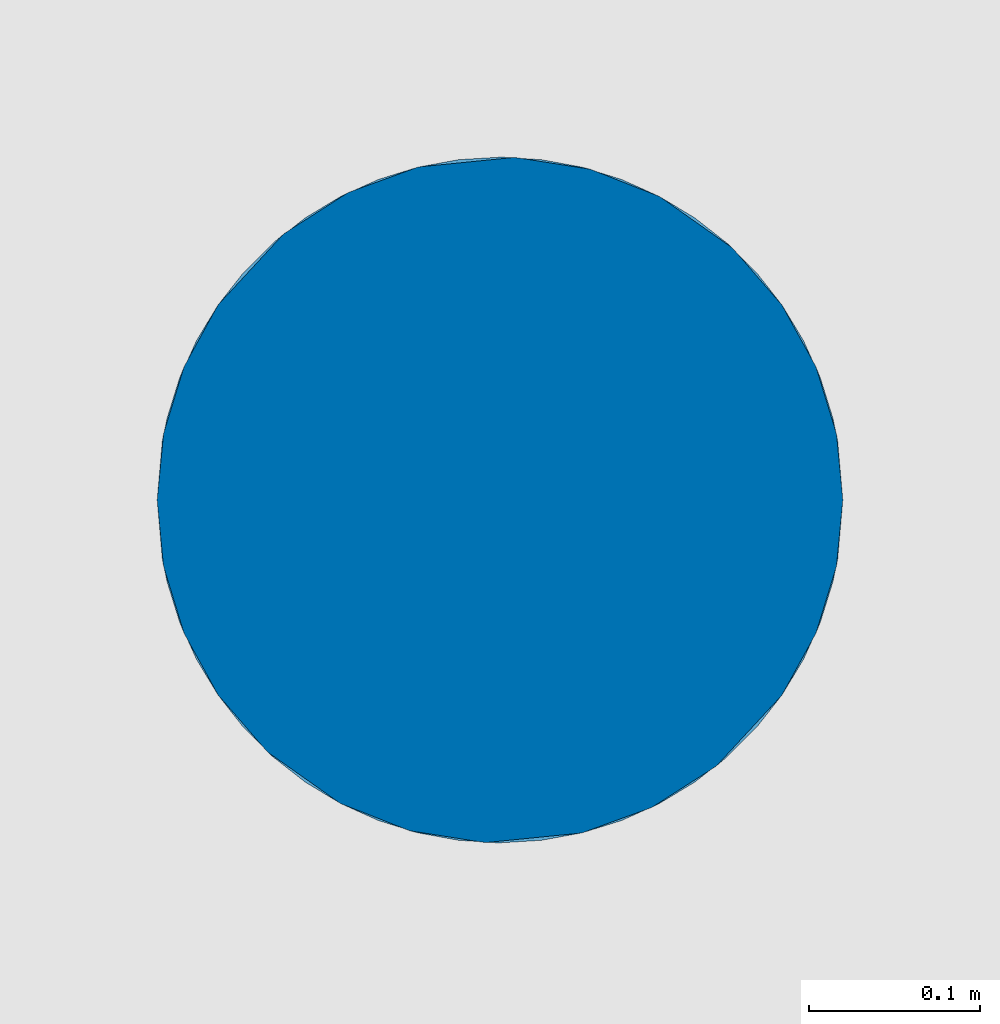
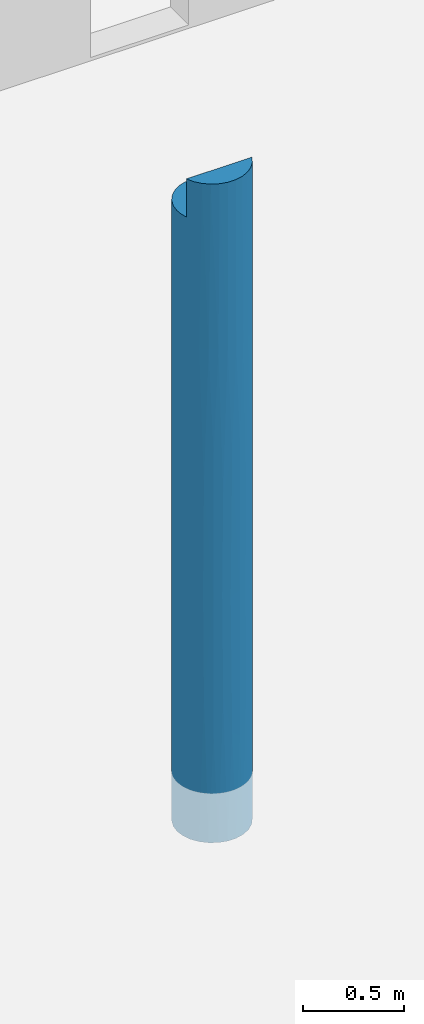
# One storey, part 10 of 29: 1 column.
"""IFC2X3 building model written with IfcOpenShell, lengths in centimetres."""

from ifc_helpers import new_model, entity, si_unit, converted_unit, derived_unit, direction, frame, origin, place, context, subcontext, project, spatial, faceted_brep, source, transform, mapped, material, type_object, type_shapes, element, save


model = new_model("IFC2X3")

# Units and contexts
model_context = context("Model", 3, precision=0.001, world=origin(), true_north=direction((6.12303176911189e-17, 1.0)))
body_context = subcontext(model_context, "Body", "Model", "MODEL_VIEW")
ifc_project = project(units=[si_unit("LENGTHUNIT", "METRE", prefix="CENTI"), si_unit("AREAUNIT", "SQUARE_METRE"), si_unit("VOLUMEUNIT", "CUBIC_METRE"), converted_unit("PLANEANGLEUNIT", "DEGREE", entity("IfcRatioMeasure", 0.0174532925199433), si_unit("PLANEANGLEUNIT", "RADIAN"), dimensions=[0, 0, 0, 0, 0, 0, 0]), si_unit("MASSUNIT", "GRAM", prefix="KILO"), derived_unit("MASSDENSITYUNIT", [(si_unit("MASSUNIT", "GRAM", prefix="KILO"), 1), (si_unit("LENGTHUNIT", "METRE"), -3)]), si_unit("TIMEUNIT", "SECOND"), si_unit("FREQUENCYUNIT", "HERTZ"), si_unit("THERMODYNAMICTEMPERATUREUNIT", "DEGREE_CELSIUS"), derived_unit("THERMALTRANSMITTANCEUNIT", [(si_unit("MASSUNIT", "GRAM", prefix="KILO"), 1), (si_unit("THERMODYNAMICTEMPERATUREUNIT", "KELVIN"), -1), (si_unit("TIMEUNIT", "SECOND"), -3)]), derived_unit("VOLUMETRICFLOWRATEUNIT", [(si_unit("LENGTHUNIT", "METRE"), 3), (si_unit("TIMEUNIT", "SECOND"), -1)]), si_unit("ELECTRICCURRENTUNIT", "AMPERE"), si_unit("ELECTRICVOLTAGEUNIT", "VOLT"), si_unit("POWERUNIT", "WATT"), si_unit("FORCEUNIT", "NEWTON"), si_unit("ILLUMINANCEUNIT", "LUX"), si_unit("LUMINOUSFLUXUNIT", "LUMEN"), si_unit("LUMINOUSINTENSITYUNIT", "CANDELA"), derived_unit("USERDEFINED", [(si_unit("MASSUNIT", "GRAM", prefix="KILO"), -1), (si_unit("LENGTHUNIT", "METRE"), -2), (si_unit("TIMEUNIT", "SECOND"), 3), (si_unit("LUMINOUSFLUXUNIT", "LUMEN"), 1)]), derived_unit("LINEARVELOCITYUNIT", [(si_unit("LENGTHUNIT", "METRE"), 1), (si_unit("TIMEUNIT", "SECOND"), -1)]), si_unit("PRESSUREUNIT", "PASCAL"), derived_unit("USERDEFINED", [(si_unit("LENGTHUNIT", "METRE"), -2), (si_unit("MASSUNIT", "GRAM", prefix="KILO"), 1), (si_unit("TIMEUNIT", "SECOND"), -2)])], contexts=[model_context])

# Site, building, storey
site_placement = place(None, origin())
site = spatial("IfcSite", under=ifc_project, at=site_placement, Name="Default", CompositionType="ELEMENT")
building_placement = place(site_placement, origin())
building = spatial("IfcBuilding", under=site, at=building_placement, Name="CAGE 03", CompositionType="ELEMENT")
storey_placement = place(building_placement, frame((0.0, 0.0, -26.0)))
storey = spatial("IfcBuildingStorey", under=building, at=storey_placement, Name="+3.74", CompositionType="ELEMENT", Elevation=-26.0000000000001)

# Column
ifc_material = material(Name="Béton, C25/30")
column_type = type_object("IfcColumnType", Name="Ø40", PredefinedType="COLUMN", material=ifc_material)
shared_shape = source(origin(), body_context, "Body", "Brep", [
    faceted_brep([(37.159527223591, 13.0380540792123, 398.0), (1.42453322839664, 13.0380540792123, 398.0), (3.41040035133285, 9.10796949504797, 398.0), (6.20776916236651, 5.70806988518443, 398.0), (9.68120958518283, 3.00265389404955, 398.0), (13.6622819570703, 1.12282730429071, 398.0), (17.9580773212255, 0.159582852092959, 398.0), (22.3604747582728, 0.15952722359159, 398.0), (26.6562085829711, 1.12263361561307, 398.0), (30.6371824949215, 3.0022464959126, 398.0), (34.1105335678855, 5.70733804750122, 398.0), (36.9079646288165, 9.10691303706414, 398.0), (38.8945212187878, 13.0380540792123, 398.0), (13.0674294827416, 38.7383789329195, 298.0), (17.7487936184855, 39.8922315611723, 298.0), (22.5702608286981, 39.8922315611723, 298.0), (27.2516249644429, 38.7383789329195, 298.0), (31.5208221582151, 36.4977313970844, 298.0), (35.1297421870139, 33.3005072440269, 298.0), (37.8686477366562, 29.3325175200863, 298.0), (39.578363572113, 24.8243673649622, 298.0), (40.159527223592, 20.0380540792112, 298.0), (39.578363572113, 15.2517407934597, 298.0), (37.8686477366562, 10.7435906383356, 298.0), (35.1297421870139, 6.77560091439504, 298.0), (31.5208221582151, 3.578376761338, 298.0), (27.2516249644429, 1.33772922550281, 298.0), (22.5702608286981, 0.183876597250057, 298.0), (17.7487936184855, 0.183876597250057, 298.0), (13.0674294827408, 1.33772922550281, 298.0), (8.79823228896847, 3.578376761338, 298.0), (5.1893122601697, 6.77560091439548, 298.0), (2.45040671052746, 10.743590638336, 298.0), (0.740690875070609, 15.2517407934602, 298.0), (0.15952722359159, 20.0380540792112, 298.0), (0.740690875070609, 24.8243673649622, 298.0), (2.45040671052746, 29.3325175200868, 298.0), (5.1893122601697, 33.3005072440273, 298.0), (8.79823228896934, 36.4977313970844, 298.0), (0.478319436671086, 16.4813617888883, 375.0), (0.159527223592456, 20.0380540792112, 375.0), (1.42453322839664, 13.0380540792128, 375.0), (38.8945212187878, 13.0380540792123, 375.0), (39.8407350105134, 16.4813617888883, 375.0), (40.159527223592, 20.0380540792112, 375.0), (39.578363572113, 24.8243673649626, 375.0), (37.8686477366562, 29.3325175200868, 375.0), (27.2516249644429, 38.7383789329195, 375.0), (31.5208221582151, 36.4977313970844, 375.0), (35.1297421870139, 33.3005072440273, 375.0), (22.5702608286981, 39.8922315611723, 375.0), (17.7487936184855, 39.8922315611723, 375.0), (13.0674294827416, 38.7383789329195, 375.0), (8.79823228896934, 36.4977313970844, 375.0), (0.740690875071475, 24.8243673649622, 375.0), (2.45040671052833, 29.3325175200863, 375.0), (5.1893122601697, 33.3005072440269, 375.0)], [[[0, 1, 2, 3, 4, 5, 6, 7, 8, 9, 10, 11, 12]], [[13, 14, 15, 16, 17, 18, 19, 20, 21, 22, 23, 24, 25, 26, 27, 28, 29, 30, 31, 32, 33, 34, 35, 36, 37, 38]], [[39, 34, 33]], [[39, 40, 34]], [[41, 33, 32]], [[30, 29, 4]], [[3, 31, 30]], [[2, 32, 31]], [[5, 29, 28]], [[41, 39, 33]], [[2, 1, 41]], [[32, 2, 41]], [[31, 3, 2]], [[30, 4, 3]], [[5, 4, 29]], [[28, 6, 5]], [[28, 7, 6]], [[25, 9, 26]], [[26, 8, 27]], [[10, 25, 24]], [[42, 22, 43]], [[24, 23, 11]], [[42, 23, 22]], [[22, 21, 43]], [[11, 23, 42]], [[8, 26, 9]], [[10, 9, 25]], [[8, 7, 27]], [[44, 43, 21]], [[11, 42, 12]], [[11, 10, 24]], [[27, 7, 28]], [[45, 20, 19, 46]], [[21, 20, 45, 44]], [[17, 16, 47, 48]], [[49, 18, 17, 48]], [[46, 19, 18, 49]], [[47, 16, 15, 50]], [[15, 14, 51, 50]], [[51, 14, 13, 52]], [[38, 53, 52, 13]], [[36, 35, 54, 55]], [[56, 37, 36, 55]], [[53, 38, 37, 56]], [[54, 35, 34, 40]], [[48, 47, 50, 51, 52, 53, 56, 55, 54, 40, 39, 41, 42, 43, 44, 45, 46, 49]], [[0, 12, 42, 41, 1]]]),
    faceted_brep([(22.5702608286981, 39.8922315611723, 0.0), (27.2516249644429, 38.7383789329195, 0.0), (31.5208221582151, 36.4977313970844, 0.0), (35.1297421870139, 33.3005072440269, 0.0), (37.8686477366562, 29.3325175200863, 0.0), (39.578363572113, 24.8243673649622, 0.0), (40.159527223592, 20.0380540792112, 0.0), (39.578363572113, 15.2517407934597, 0.0), (37.8686477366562, 10.7435906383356, 0.0), (35.1297421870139, 6.77560091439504, 0.0), (31.5208221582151, 3.578376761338, 0.0), (27.2516249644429, 1.33772922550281, 0.0), (22.5702608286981, 0.183876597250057, 0.0), (17.7487936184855, 0.183876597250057, 0.0), (13.0674294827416, 1.33772922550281, 0.0), (8.79823228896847, 3.578376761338, 0.0), (5.1893122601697, 6.77560091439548, 0.0), (2.45040671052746, 10.743590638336, 0.0), (0.740690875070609, 15.2517407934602, 0.0), (0.15952722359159, 20.0380540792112, 0.0), (0.740690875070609, 24.8243673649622, 0.0), (2.45040671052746, 29.3325175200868, 0.0), (5.1893122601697, 33.3005072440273, 0.0), (8.79823228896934, 36.4977313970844, 0.0), (13.0674294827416, 38.7383789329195, 0.0), (17.7487936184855, 39.8922315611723, 0.0), (27.2516249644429, 1.33772922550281, 298.0), (31.5208221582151, 3.578376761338, 298.0), (35.1297421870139, 6.77560091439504, 298.0), (37.8686477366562, 10.7435906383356, 298.0), (39.578363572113, 15.2517407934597, 298.0), (40.159527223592, 20.0380540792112, 298.0), (39.578363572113, 24.8243673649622, 298.0), (37.8686477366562, 29.3325175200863, 298.0), (35.1297421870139, 33.3005072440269, 298.0), (31.5208221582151, 36.4977313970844, 298.0), (27.2516249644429, 38.7383789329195, 298.0), (22.5702608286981, 39.8922315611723, 298.0), (17.7487936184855, 39.8922315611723, 298.0), (13.0674294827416, 38.7383789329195, 298.0), (8.79823228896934, 36.4977313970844, 298.0), (5.1893122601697, 33.3005072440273, 298.0), (2.45040671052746, 29.3325175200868, 298.0), (0.740690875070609, 24.8243673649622, 298.0), (0.15952722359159, 20.0380540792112, 298.0), (0.740690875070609, 15.2517407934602, 298.0), (2.45040671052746, 10.743590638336, 298.0), (5.1893122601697, 6.77560091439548, 298.0), (8.79823228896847, 3.578376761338, 298.0), (13.0674294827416, 1.33772922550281, 298.0), (17.7487936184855, 0.183876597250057, 298.0), (22.5702608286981, 0.183876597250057, 298.0), (29.4539906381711, 37.7471746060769, 234.492004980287), (15.3732139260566, 39.4568904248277, 237.069426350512), (39.8586298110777, 23.4942596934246, 60.2992552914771), (38.8598520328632, 27.1301519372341, 92.1783624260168), (29.4539906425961, 37.7471746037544, 64.7303650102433), (33.4219803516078, 35.0082690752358, 86.909719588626), (0.159527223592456, 20.0380540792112, 49.3811051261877), (36.6192045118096, 31.3993490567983, 234.492005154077), (38.8598520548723, 27.1301518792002, 216.184382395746), (39.7898281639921, 23.8657537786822, 148.140478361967), (38.5835538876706, 27.8197789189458, 151.462832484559), (0.15952722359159, 20.0380540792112, 100.479587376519), (0.539464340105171, 23.9178907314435, 149.859525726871), (0.457816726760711, 23.479362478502, 74.9297628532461), (1.73651405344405, 27.8221780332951, 152.588649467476), (1.45920236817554, 27.1301518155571, 86.9097194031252), (24.9458404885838, 39.4568904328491, 86.9097193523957), (20.15952721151, 40.0380540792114, 64.7303650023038), (3.69984990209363, 31.3993490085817, 237.069426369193), (6.89707405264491, 35.0082690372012, 233.269635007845), (40.1595272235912, 20.0380540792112, 248.619841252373), (10.8650637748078, 37.7471745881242, 86.9097194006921), (33.4219803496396, 35.0082690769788, 216.184382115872), (36.6192044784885, 31.3993491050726, 161.451403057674), (36.6192045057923, 31.3993490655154, 64.7303651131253), (0.159527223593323, 20.0380540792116, 197.520510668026), (0.159527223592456, 20.0380540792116, 199.23979368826), (29.4539906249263, 37.747174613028, 149.0), (0.441806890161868, 23.3864126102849, 238.83127802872), (1.45920236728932, 27.1301518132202, 211.090280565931), (15.3732139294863, 39.4568904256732, 60.9305736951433), (15.3732139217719, 39.4568904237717, 149.0), (11.3350094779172, 37.9859755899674, 149.0), (6.89707405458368, 35.0082690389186, 64.7303649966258), (20.1595272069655, 40.0380540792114, 233.269635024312), (3.6998499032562, 31.3993490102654, 60.930573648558), (3.69984990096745, 31.3993490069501, 149.0), (21.0345162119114, 40.0189047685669, 146.717454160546), (25.4559542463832, 39.3240039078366, 149.0), (24.9458404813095, 39.4568904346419, 211.09028058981), (40.159527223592, 20.0380540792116, 98.7603174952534), (10.8650637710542, 37.7471745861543, 211.09028055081), (33.7312290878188, 34.7284900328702, 151.547050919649), (7.56471106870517, 35.5741606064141, 146.717453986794), (39.8666164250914, 23.4484257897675, 223.070239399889), (40.1595272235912, 20.0380540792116, 197.520634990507), (40.1595272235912, 20.0380540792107, 100.479367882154), (40.159527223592, 20.0380540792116, 49.3801580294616), (0.15952722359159, 20.0380540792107, 98.7602553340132), (0.15952722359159, 20.0380540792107, 248.619032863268), (40.159527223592, 20.0380540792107, 199.239683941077), (36.6192045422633, 8.67675914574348, 237.069426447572), (33.4219803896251, 5.06783911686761, 233.269635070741), (39.8772475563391, 16.6896955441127, 238.831278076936), (38.8598520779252, 12.945956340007, 211.090280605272), (38.5825403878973, 12.2539301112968, 152.588649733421), (38.8598520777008, 12.9459563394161, 86.9097193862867), (39.7795901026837, 16.1582174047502, 149.859525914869), (6.89707406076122, 5.0678391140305, 86.9097194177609), (10.8650637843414, 2.3289335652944, 64.7303649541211), (24.9458405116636, 0.619217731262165, 149.0), (29.4539906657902, 2.32893356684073, 86.909719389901), (28.9840449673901, 2.09013256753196, 149.0), (6.89707406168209, 5.06783911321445, 216.184381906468), (32.7543433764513, 4.501947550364, 146.717453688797), (33.4219803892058, 5.06783911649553, 64.7303649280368), (39.8612377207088, 16.5967456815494, 74.9297629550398), (20.1595272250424, 0.0380540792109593, 64.7303649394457), (15.3732139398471, 0.619217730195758, 86.9097193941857), (1.45920237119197, 12.9459563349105, 92.1783625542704), (10.8650637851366, 2.32893356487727, 234.492004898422), (24.9458405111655, 0.619217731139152, 237.069426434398), (3.69984990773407, 8.6767591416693, 234.492004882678), (3.69984990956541, 8.67675913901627, 161.451402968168), (3.69984990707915, 8.67675914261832, 64.7303649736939), (1.45920237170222, 12.9459563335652, 216.184381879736), (0.529226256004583, 16.2103545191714, 148.140474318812), (1.73550049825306, 12.2563293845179, 151.462831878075), (10.865063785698, 2.3289335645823, 149.0), (0.460424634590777, 16.5818484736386, 60.2992559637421), (24.9458405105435, 0.619217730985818, 60.9305735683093), (19.2845382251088, 0.0572033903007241, 146.717453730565), (36.6192045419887, 8.67675914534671, 60.9305735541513), (36.6192045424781, 8.67675914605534, 149.0), (20.1595272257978, 0.0380540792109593, 233.269635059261), (14.8631001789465, 0.752104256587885, 149.0), (15.3732139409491, 0.619217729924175, 211.090280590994), (29.4539906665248, 2.32893356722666, 211.090280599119), (6.58782530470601, 5.3476181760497, 151.54705066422), (0.45243801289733, 16.6276824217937, 223.070237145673)], [[[0, 1, 2, 3, 4, 5, 6, 7, 8, 9, 10, 11, 12, 13, 14, 15, 16, 17, 18, 19, 20, 21, 22, 23, 24, 25]], [[26, 27, 28, 29, 30, 31, 32, 33, 34, 35, 36, 37, 38, 39, 40, 41, 42, 43, 44, 45, 46, 47, 48, 49, 50, 51]], [[36, 35, 52]], [[39, 38, 53]], [[54, 6, 5]], [[55, 5, 4]], [[2, 56, 57]], [[20, 19, 58]], [[34, 33, 59]], [[60, 61, 62]], [[2, 1, 56]], [[63, 64, 65]], [[66, 67, 64]], [[68, 0, 69]], [[2, 57, 3]], [[68, 1, 0]], [[70, 41, 71]], [[32, 31, 72]], [[73, 24, 23]], [[74, 35, 34]], [[33, 32, 60]], [[59, 33, 60]], [[74, 59, 75]], [[75, 76, 57]], [[64, 63, 77, 78]], [[74, 52, 35]], [[42, 41, 70]], [[57, 56, 79]], [[79, 52, 74]], [[80, 43, 81]], [[69, 25, 82]], [[83, 73, 84]], [[40, 71, 41]], [[73, 23, 85]], [[67, 65, 64]], [[37, 86, 38]], [[87, 88, 85]], [[88, 70, 71]], [[89, 68, 69]], [[22, 87, 85]], [[79, 68, 90]], [[85, 23, 22]], [[81, 43, 42]], [[86, 37, 91]], [[53, 38, 86]], [[61, 92, 54]], [[57, 76, 3]], [[54, 5, 55]], [[69, 82, 83]], [[83, 53, 86]], [[76, 75, 55]], [[93, 40, 39]], [[71, 40, 93]], [[94, 79, 74]], [[21, 20, 67]], [[44, 43, 80]], [[69, 0, 25]], [[91, 37, 36]], [[95, 73, 85]], [[3, 76, 4]], [[94, 74, 75]], [[52, 79, 91]], [[79, 56, 68]], [[32, 72, 96]], [[61, 97, 98, 92]], [[1, 68, 56]], [[55, 4, 76]], [[25, 24, 82]], [[89, 69, 83]], [[93, 53, 83]], [[83, 82, 73]], [[90, 89, 91]], [[91, 89, 86]], [[83, 86, 89]], [[22, 21, 87]], [[95, 85, 88]], [[81, 70, 88]], [[88, 87, 67]], [[84, 95, 93]], [[93, 95, 71]], [[88, 71, 95]], [[91, 36, 52]], [[75, 59, 60]], [[74, 34, 59]], [[24, 73, 82]], [[93, 39, 53]], [[21, 67, 87]], [[81, 42, 70]], [[62, 61, 55]], [[61, 60, 96]], [[55, 75, 62]], [[60, 62, 75]], [[61, 54, 55]], [[54, 92, 99, 6]], [[89, 90, 68]], [[91, 79, 90]], [[95, 84, 73]], [[93, 83, 84]], [[65, 58, 100, 63]], [[20, 58, 65]], [[20, 65, 67]], [[80, 64, 78]], [[64, 81, 66]], [[64, 80, 81]], [[80, 78, 101, 44]], [[75, 57, 94]], [[79, 94, 57]], [[96, 72, 102, 97]], [[61, 96, 97]], [[32, 96, 60]], [[81, 88, 66]], [[67, 66, 88]], [[103, 28, 104]], [[105, 30, 106]], [[107, 108, 109]], [[16, 15, 110]], [[15, 111, 110]], [[112, 113, 114]], [[111, 15, 14]], [[7, 6, 99]], [[47, 115, 48]], [[116, 113, 117]], [[98, 109, 118]], [[13, 119, 120]], [[121, 18, 17]], [[120, 14, 13]], [[49, 48, 122]], [[45, 44, 101]], [[26, 51, 123]], [[115, 124, 125]], [[125, 126, 110]], [[127, 128, 129]], [[124, 47, 46]], [[127, 124, 46]], [[109, 98, 97, 102]], [[122, 48, 115]], [[113, 11, 10]], [[110, 111, 130]], [[130, 122, 115]], [[131, 19, 18]], [[119, 12, 132]], [[117, 10, 9]], [[133, 120, 119]], [[113, 10, 117]], [[108, 118, 109]], [[126, 125, 121]], [[125, 124, 127]], [[134, 135, 117]], [[135, 103, 104]], [[50, 136, 51]], [[9, 134, 117]], [[119, 13, 12]], [[130, 120, 137]], [[106, 30, 29]], [[136, 50, 138]], [[123, 51, 136]], [[16, 126, 17]], [[46, 45, 127]], [[128, 100, 131]], [[119, 132, 112]], [[112, 123, 136]], [[131, 18, 121]], [[139, 27, 26]], [[104, 27, 139]], [[31, 30, 105]], [[8, 7, 108]], [[110, 126, 16]], [[140, 130, 115]], [[138, 50, 49]], [[27, 104, 28]], [[29, 28, 103]], [[140, 115, 125]], [[122, 130, 138]], [[130, 111, 120]], [[45, 101, 141]], [[128, 77, 63, 100]], [[14, 120, 111]], [[121, 17, 126]], [[12, 11, 132]], [[133, 119, 112]], [[139, 123, 112]], [[112, 132, 113]], [[137, 133, 138]], [[138, 133, 136]], [[112, 136, 133]], [[9, 8, 134]], [[116, 117, 135]], [[106, 103, 135]], [[135, 134, 108]], [[114, 116, 139]], [[139, 116, 104]], [[135, 104, 116]], [[138, 49, 122]], [[115, 47, 124]], [[11, 113, 132]], [[139, 26, 123]], [[8, 108, 134]], [[106, 29, 103]], [[129, 128, 121]], [[128, 127, 141]], [[121, 125, 129]], [[127, 129, 125]], [[128, 131, 121]], [[131, 100, 58, 19]], [[133, 137, 120]], [[138, 130, 137]], [[116, 114, 113]], [[139, 112, 114]], [[118, 99, 92, 98]], [[7, 99, 118]], [[7, 118, 108]], [[105, 109, 102]], [[109, 106, 107]], [[109, 105, 106]], [[105, 102, 72, 31]], [[125, 110, 140]], [[130, 140, 110]], [[141, 101, 78, 77]], [[128, 141, 77]], [[45, 141, 127]], [[106, 135, 107]], [[108, 107, 135]]]),
])
type_shapes(column_type, [shared_shape])
column_placement = place(storey_placement, frame((6636.20629291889, 3801.62261199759, -32.0)))
element("IfcColumn", 1, at=column_placement, inside=storey, type_object=column_type, material=ifc_material, Name="BBGO-Poteau circ:Ø40", ObjectType="Ø40", context=body_context, shape_type="MappedRepresentation", body=[
    mapped(shared_shape, transform((0.0, 0.0, 0.0), scale=1.0)),
])

save(model, "model.ifc")
